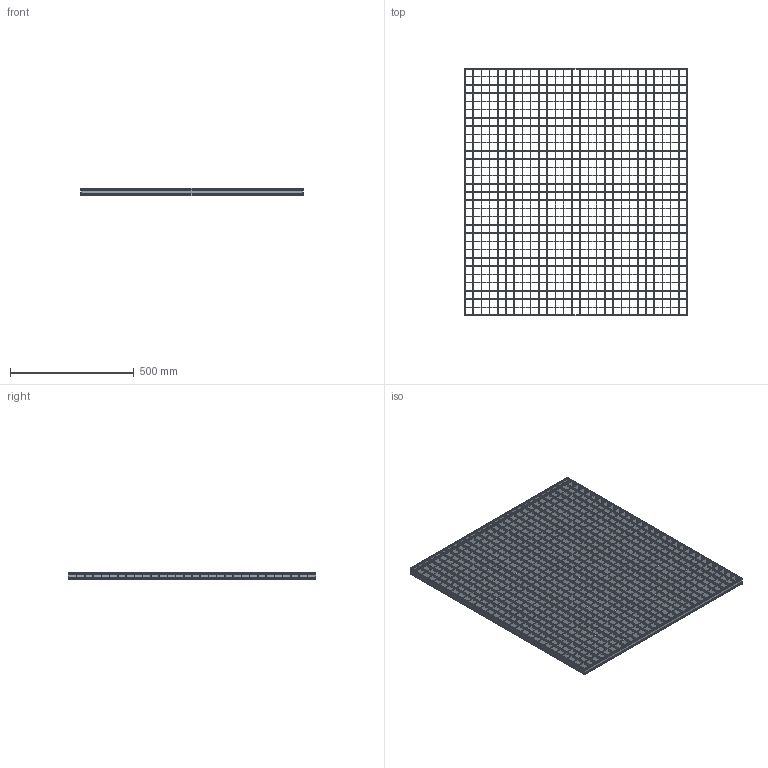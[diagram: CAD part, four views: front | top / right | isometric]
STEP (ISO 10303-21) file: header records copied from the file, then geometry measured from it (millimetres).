
FILE_DESCRIPTION(/* description */ ('STEP AP242','CAx-IF Rec.Pracs.---Representation and Presentation of Product Manufacturing Information (PMI)---4.0---2014-10-13','CAx-IF Rec.Pracs.---3D Tessellated Geometry---0.4---2014-09-14','2;1'),/* implementation_level */ '2;1');
FILE_NAME(/* name */ 'Lichtgitter_Pressure_locked_gratings P 230-33-2-1-1-900-1000_(350_0)',/* time_stamp */ '2026-04-22T15:16:33+02:00',/* author */ ('License CC BY-ND 4.0'),/* organization */ ('CADENAS'),/* preprocessor_version */ 'ST-DEVELOPER v20',/* originating_system */ 'PARTsolutions',/* authorisation */ ' ');
FILE_SCHEMA (('AP242_MANAGED_MODEL_BASED_3D_ENGINEERING_MIM_LF { 1 0 10303 442 1 1 4 }'));
Length unit declared in the file: millimetre
Products named in the file (5): Lichtgitter_Pressure_locked_gratings P 230-33-2-1-1-900-1000_(350_0); Lichtgitter P 230-33-2_(Pressroste_350_1_1000_900)_VERTICAL; Lichtgitter P 230-33-2_(Pressroste_350_1_1000_900)_HORIZONTAL_C; Lichtgitter P 230-33-2_(Pressroste_350_1_1000_900)_HORIZONTAL; Lichtgitter P 230-33-2_(Pressroste_350_1_1000_900)_VERTICAL_C
Assembly tree (59 placements, depth 2):
  Lichtgitter_Pressure_locked_gratings P 230-33-2-1-1-900-1000_(350_0)
    Lichtgitter P 230-33-2_(Pressroste_350_1_1000_900)_VERTICAL  x2
    Lichtgitter P 230-33-2_(Pressroste_350_1_1000_900)_HORIZONTAL_C  x29
    Lichtgitter P 230-33-2_(Pressroste_350_1_1000_900)_HORIZONTAL  x2
    Lichtgitter P 230-33-2_(Pressroste_350_1_1000_900)_VERTICAL_C  x26
Bounding box: 900 x 1000 x 30 mm (x, y, z)
Volume: 2305741.7 mm3; surface area: 2550600.5 mm2
Topology: 59 solids, 59 shells, 3418 faces, 9900 edges, 6600 vertices
Faces by surface type: plane 3386, cylinder 32
Entity records: 5427 total; most frequent: CARTESIAN_POINT 932, DIRECTION 888, ORIENTED_EDGE 864, EDGE_CURVE 432, LINE 400, VECTOR 400, VERTEX_POINT 288, AXIS2_PLACEMENT_3D 244
